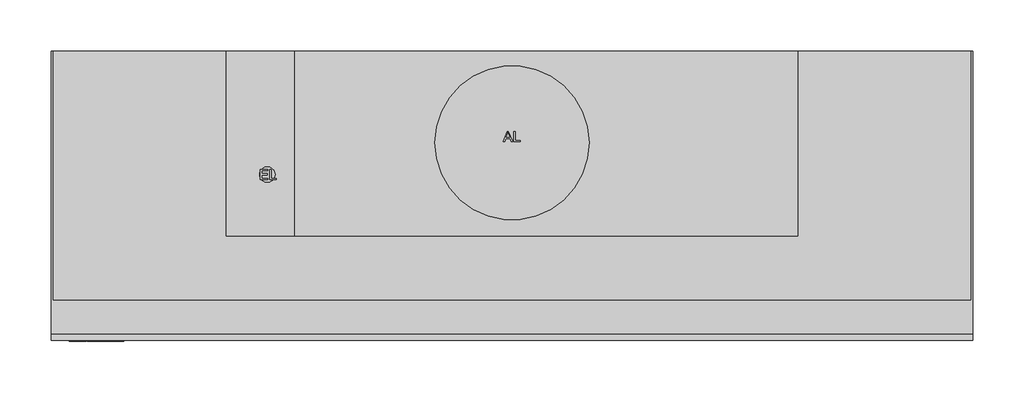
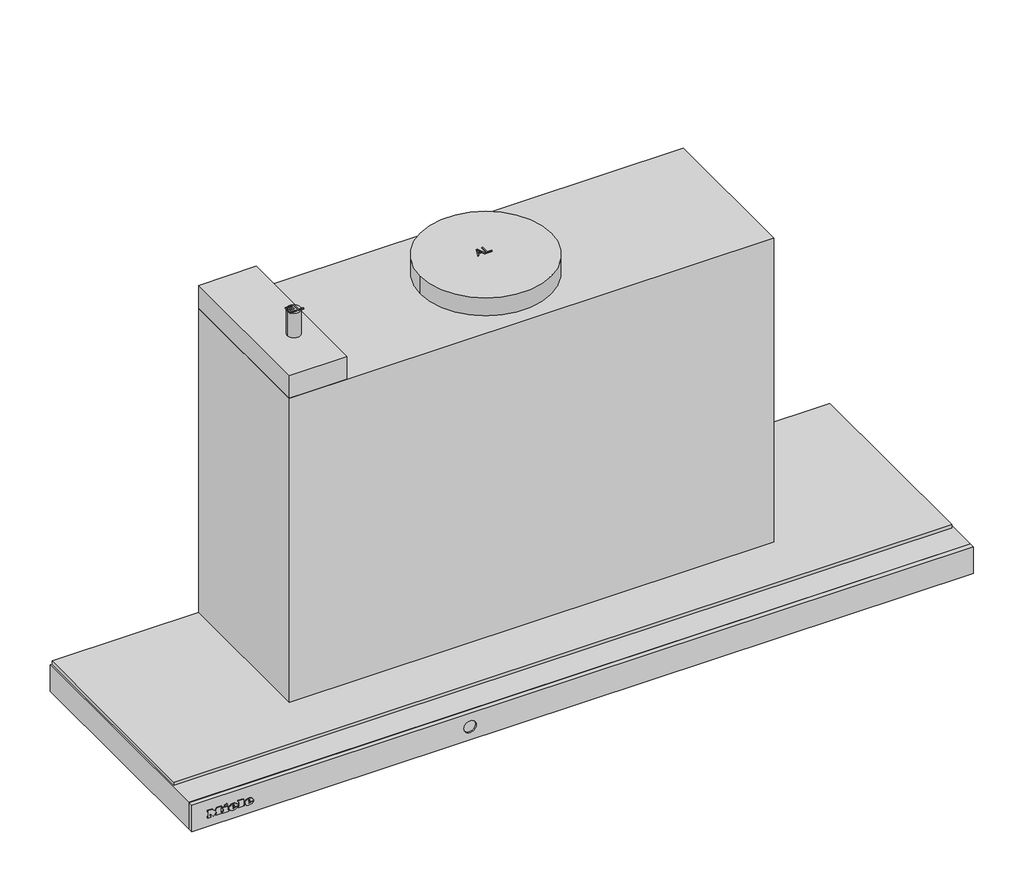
# Not in any storey: 1 proxy.
"""IFC4 building model written with IfcOpenShell, lengths in millimetres."""

import ifcopenshell
import ifcopenshell.guid

model = None  # the IFC model being written
_history = None  # IfcOwnerHistory: only IFC2X3 demands one
_inside = {}  # id of a spatial element -> (the spatial element, [elements in it])
_under = {}  # id of a project, library or spatial element -> (it, [spatial elements below it])
_declared = {}  # id of a project -> (the project, [libraries it declares])
_typed = {}  # id of a type object -> (the type object, [elements of that type])
_made_of = {}  # id of a material, layer set ... -> (it, [elements and type objects made of it])


def new_model(schema):
    """Start an empty IFC model of exactly this schema.

    Asked for "IFC4X3", IfcOpenShell would pick the latest addendum, in which some entities
    have other attributes; the version numbers below select the first issue.
    IFC2X3 requires an IfcOwnerHistory on every rooted entity: one is made here for all.
    """
    global model, _history
    if schema == "IFC4X3":
        model = ifcopenshell.file(schema_version=(4, 3, 0, 0))
    else:
        model = ifcopenshell.file(schema=schema)
    _inside.clear()
    _under.clear()
    _declared.clear()
    _typed.clear()
    _made_of.clear()
    _history = None
    if model.schema == "IFC2X3":
        org = make("IfcOrganization", Name="unknown")
        user = make(
            "IfcPersonAndOrganization",
            ThePerson=make("IfcPerson", FamilyName="unknown"),
            TheOrganization=org,
        )
        app = make(
            "IfcApplication",
            ApplicationDeveloper=org,
            Version="unknown",
            ApplicationFullName="unknown",
            ApplicationIdentifier="unknown",
        )
        _history = make(
            "IfcOwnerHistory",
            OwningUser=user,
            OwningApplication=app,
            ChangeAction="ADDED",
            CreationDate=0,
        )
    return model


def make(cls, **values):
    """One entity of the class cls with the attributes given. An attribute that is None is left unset."""
    return model.create_entity(
        cls, **{name: value for name, value in values.items() if value is not None}
    )


def rooted(cls, **values):
    """An entity with a GlobalId (a new one), such as an element, a storey or a relation."""
    return make(cls, GlobalId=ifcopenshell.guid.new(), OwnerHistory=_history, **values)


def si_unit(unit_type, name, prefix=None):
    """IfcSIUnit, for example si_unit("LENGTHUNIT", "METRE", prefix="MILLI")."""
    return make("IfcSIUnit", UnitType=unit_type, Prefix=prefix, Name=name)


def assignment(units):
    """IfcUnitAssignment: the units of a project."""
    return None if units is None else make("IfcUnitAssignment", Units=units)


def point(xyz):
    """IfcCartesianPoint."""
    return None if xyz is None else make("IfcCartesianPoint", Coordinates=xyz)


def direction(xyz):
    """IfcDirection."""
    return None if xyz is None else make("IfcDirection", DirectionRatios=xyz)


def frame(location, z_axis=None, x_axis=None):
    """IfcAxis2Placement3D, a coordinate frame: its origin and axes. An axis left out is left unset."""
    return make(
        "IfcAxis2Placement3D",
        Location=point(location),
        Axis=direction(z_axis),
        RefDirection=direction(x_axis),
    )


def frame_2d(location, x_axis=None):
    """IfcAxis2Placement2D, a coordinate frame in the plane: its origin and x axis."""
    return make(
        "IfcAxis2Placement2D", Location=point(location), RefDirection=direction(x_axis)
    )


def origin():
    """The frame at (0, 0, 0) with its axes left unset."""
    return frame((0.0, 0.0, 0.0))


def origin_with_axes():
    """The frame at (0, 0, 0) with the z axis (0, 0, 1) and the x axis (1, 0, 0) written out."""
    return frame((0.0, 0.0, 0.0), z_axis=(0.0, 0.0, 1.0), x_axis=(1.0, 0.0, 0.0))


def place(relative_to, where):
    """IfcLocalPlacement: puts the frame where relative to a parent placement (None: the world)."""
    return make(
        "IfcLocalPlacement", PlacementRelTo=relative_to, RelativePlacement=where
    )


def context(
    kind, dimensions, precision=None, world=None, true_north=None, identifier=None
):
    """IfcGeometricRepresentationContext, for example the 3D "Model" context."""
    return make(
        "IfcGeometricRepresentationContext",
        ContextIdentifier=identifier,
        ContextType=kind,
        CoordinateSpaceDimension=dimensions,
        Precision=precision,
        WorldCoordinateSystem=world,
        TrueNorth=true_north,
    )


def project(units=None, contexts=None):
    """IfcProject with its units and contexts."""
    return rooted(
        "IfcProject",
        Name="project",
        RepresentationContexts=contexts,
        UnitsInContext=assignment(units),
    )


def spatial(cls, under=None, at=None, **own):
    """A site, building, storey or space (cls), placed at a placement, below another one or the project."""
    s = rooted(cls, ObjectPlacement=at, **own)
    if under is not None:
        _under.setdefault(under.id(), (under, []))[1].append(s)
    return s


def polyline(points):
    """IfcPolyline through the points."""
    return make("IfcPolyline", Points=[point(p) for p in points])


def circle_curve(where, radius):
    """IfcCircle in the frame where."""
    return make("IfcCircle", Position=where, Radius=radius)


def ellipse_curve(where, semi_axis1, semi_axis2):
    """IfcEllipse in the frame where."""
    return make(
        "IfcEllipse", Position=where, SemiAxis1=semi_axis1, SemiAxis2=semi_axis2
    )


def trimmed(basis, trim1, trim2, sense, master):
    """IfcTrimmedCurve: the piece of a basis curve between two trims."""
    return make(
        "IfcTrimmedCurve",
        BasisCurve=basis,
        Trim1=trim1,
        Trim2=trim2,
        SenseAgreement=sense,
        MasterRepresentation=master,
    )


def segment(curve, same_sense, transition):
    """IfcCompositeCurveSegment."""
    return make(
        "IfcCompositeCurveSegment",
        Transition=transition,
        SameSense=same_sense,
        ParentCurve=curve,
    )


def composite_curve(segments, self_intersect=None):
    """IfcCompositeCurve: segments joined end to end."""
    return make("IfcCompositeCurve", Segments=segments, SelfIntersect=self_intersect)


def outline(outer, holes=None, kind="AREA"):
    """IfcArbitraryClosedProfileDef: a profile drawn as a closed curve; with holes, ...WithVoids."""
    if holes is None:
        return make("IfcArbitraryClosedProfileDef", ProfileType=kind, OuterCurve=outer)
    return make(
        "IfcArbitraryProfileDefWithVoids",
        ProfileType=kind,
        OuterCurve=outer,
        InnerCurves=holes,
    )


def extrude(swept, where, along, depth):
    """IfcExtrudedAreaSolid: the profile swept, set in the frame where, extruded along a direction by depth."""
    return make(
        "IfcExtrudedAreaSolid",
        SweptArea=swept,
        Position=where,
        ExtrudedDirection=direction(along),
        Depth=depth,
    )


def faces_of(points, faces, orient=None, outer=None):
    """IfcFace entities. A face is a list of loops; a loop is a list of indices into points, from 0.

    orient and outer hold one flag for each loop. By default every Orientation is true, the
    first loop of a face is its IfcFaceOuterBound and the others are IfcFaceBound.
    """
    made = []
    for i, loops in enumerate(faces):
        bounds = []
        for j, loop in enumerate(loops):
            is_outer = j == 0 if outer is None else outer[i][j]
            bounds.append(
                make(
                    "IfcFaceOuterBound" if is_outer else "IfcFaceBound",
                    Bound=make("IfcPolyLoop", Polygon=[points[k] for k in loop]),
                    Orientation=True if orient is None else orient[i][j],
                )
            )
        made.append(make("IfcFace", Bounds=bounds))
    return made


def faceted_brep(points, faces, orient=None, outer=None, voids=None):
    """IfcFacetedBrep: a solid bounded by flat faces; with voids (closed shells), ...WithVoids."""
    shared = [point(p) for p in points]
    hull = make("IfcClosedShell", CfsFaces=faces_of(shared, faces, orient, outer))
    if voids is None:
        return make("IfcFacetedBrep", Outer=hull)
    return make(
        "IfcFacetedBrepWithVoids",
        Outer=hull,
        Voids=[
            make(cls, CfsFaces=faces_of(shared, fs, o, b)) for cls, fs, o, b in voids
        ],
    )


def shape(context_of_items, identifier, shape_type, items):
    """IfcShapeRepresentation: the items that make up one representation, for example the "Body"."""
    return make(
        "IfcShapeRepresentation",
        ContextOfItems=context_of_items,
        RepresentationIdentifier=identifier,
        RepresentationType=shape_type,
        Items=items,
    )


def source(mapping_origin, context_of_items, identifier, shape_type, items):
    """IfcRepresentationMap: a shape defined once, which mapped items show again and again."""
    return make(
        "IfcRepresentationMap",
        MappingOrigin=mapping_origin,
        MappedRepresentation=shape(context_of_items, identifier, shape_type, items),
    )


def transform(
    local_origin,
    x_axis=None,
    y_axis=None,
    z_axis=None,
    scale=None,
    scale2=None,
    scale3=None,
    uniform=True,
):
    """IfcCartesianTransformationOperator3D, or its non-uniform kind. x_axis, y_axis, z_axis: its Axis1, 2, 3."""
    if uniform:
        return make(
            "IfcCartesianTransformationOperator3D",
            Axis1=direction(x_axis),
            Axis2=direction(y_axis),
            LocalOrigin=point(local_origin),
            Scale=scale,
            Axis3=direction(z_axis),
        )
    return make(
        "IfcCartesianTransformationOperator3DnonUniform",
        Axis1=direction(x_axis),
        Axis2=direction(y_axis),
        LocalOrigin=point(local_origin),
        Scale=scale,
        Axis3=direction(z_axis),
        Scale2=scale2,
        Scale3=scale3,
    )


def mapped(mapping_source, mapping_target):
    """IfcMappedItem: shows the shape of a source again, moved by a transform."""
    return make(
        "IfcMappedItem", MappingSource=mapping_source, MappingTarget=mapping_target
    )


def made_of(thing, what):
    """Note that an element or type object is made of a material, layer set ...; save() writes the relation."""
    if what is not None:
        _made_of.setdefault(what.id(), (what, []))[1].append(thing)
    return thing


def element(
    cls,
    number,
    at=None,
    inside=None,
    cuts=None,
    type_object=None,
    material=None,
    context=None,
    identifier="Body",
    shape_type=None,
    held_by="IfcProductDefinitionShape",
    body=None,
    shapes=None,
    **own,
):
    """One element of the class cls, such as IfcWall. Its Tag is "e" and its number.

    at: its placement. inside: the storey or other place that contains it. cuts: it is an
    opening in that element (IfcRelVoidsElement). A single representation is given by context,
    identifier, shape_type and body (its items); several are given by shapes. held_by: the class
    of the entity that holds the representations. save() writes the other relations.
    """
    e = rooted(cls, Tag="e%d" % number, ObjectPlacement=at, **own)
    if body is not None:
        shapes = [shape(context, identifier, shape_type, body)]
    if shapes is not None:
        e.Representation = make(held_by, Representations=shapes)
    if inside is not None:
        _inside.setdefault(inside.id(), (inside, []))[1].append(e)
    if cuts is not None:
        rooted(
            "IfcRelVoidsElement", RelatingBuildingElement=cuts, RelatedOpeningElement=e
        )
    if type_object is not None:
        _typed.setdefault(type_object.id(), (type_object, []))[1].append(e)
    return made_of(e, material)


def aggregate(whole, parts):
    """IfcRelAggregates: a whole, such as a stair, and the parts it consists of."""
    return rooted("IfcRelAggregates", RelatingObject=whole, RelatedObjects=parts)


def save(model, path):
    """Write the relations noted so far, then the file.

    IfcRelAggregates (storeys below a building ...), IfcRelContainedInSpatialStructure (elements
    in a storey), IfcRelDefinesByType, IfcRelAssociatesMaterial and IfcRelDeclares: one each for
    every whole, place, type object, material and project.
    """
    for whole, parts in _under.values():
        aggregate(whole, parts)
    for where, things in _inside.values():
        rooted(
            "IfcRelContainedInSpatialStructure",
            RelatedElements=things,
            RelatingStructure=where,
        )
    for kind, things in _typed.values():
        rooted("IfcRelDefinesByType", RelatedObjects=things, RelatingType=kind)
    for what, things in _made_of.values():
        rooted("IfcRelAssociatesMaterial", RelatedObjects=things, RelatingMaterial=what)
    for by, libraries in _declared.values():
        rooted("IfcRelDeclares", RelatingContext=by, RelatedDefinitions=libraries)
    model.write(path)


def plane_surface(at):
    """IfcPlane: the flat surface through the origin of the frame at, square to its z axis."""
    return make("IfcPlane", Position=at)


def cylinder_surface(at, radius):
    """IfcCylindricalSurface: all points at the distance radius from the z axis of the frame at."""
    return make("IfcCylindricalSurface", Position=at, Radius=radius)


def revolved_surface(curve, axis_point, axis_direction):
    """IfcSurfaceOfRevolution: the curve turned about the line through axis_point along axis_direction."""
    return make(
        "IfcSurfaceOfRevolution",
        SweptCurve=make("IfcArbitraryOpenProfileDef", ProfileType="CURVE", Curve=curve),
        AxisPosition=make("IfcAxis1Placement", Location=point(axis_point), Axis=direction(axis_direction)),
    )


def extruded_surface(curve, direction_of_extrusion, depth):
    """IfcSurfaceOfLinearExtrusion: the curve pushed along a direction by depth."""
    return make(
        "IfcSurfaceOfLinearExtrusion",
        SweptCurve=make("IfcArbitraryOpenProfileDef", ProfileType="CURVE", Curve=curve),
        ExtrudedDirection=direction(direction_of_extrusion),
        Depth=depth,
    )


def advanced_brep(points, edges, surfaces, faces):
    """IfcAdvancedBrep: a solid bounded by faces that lie on surfaces and meet in shared edges.

    An edge is (start, end): straight between two places in points (the first is 0);
    or (start, end, curve); or (start, end, curve, False) where it runs against its curve.
    A face is (place in surfaces, loops), or (place, loops, False) where it looks against
    its surface's normal. A loop lists edges by number (the first is 1), with a minus sign
    where the edge is run from its end to its start. The first loop is the outer one.
    """
    corners = [point(p) for p in points]
    vertices = [make("IfcVertexPoint", VertexGeometry=c) for c in corners]
    made = []
    for start, end, *more in edges:
        made.append(
            make(
                "IfcEdgeCurve",
                EdgeStart=vertices[start],
                EdgeEnd=vertices[end],
                EdgeGeometry=more[0] if more else make("IfcPolyline", Points=[corners[start], corners[end]]),
                SameSense=more[1] if len(more) > 1 else True,
            )
        )
    hull = []
    for where, loops, *sense in faces:
        bounds = []
        for j, loop in enumerate(loops):
            ring = [make("IfcOrientedEdge", EdgeElement=made[abs(k) - 1], Orientation=k > 0) for k in loop]
            bounds.append(
                make(
                    "IfcFaceOuterBound" if j == 0 else "IfcFaceBound",
                    Bound=make("IfcEdgeLoop", EdgeList=ring),
                    Orientation=True,
                )
            )
        hull.append(make("IfcAdvancedFace", Bounds=bounds, FaceSurface=surfaces[where], SameSense=sense[0] if sense else True))
    return make("IfcAdvancedBrep", Outer=make("IfcClosedShell", CfsFaces=hull))


def specialty_equipment_2f2f18a0(model_context):
    return source(origin(), model_context, "Body", "SolidModel", [
        advanced_brep(
        [(-383.4590019, -282.1878927, -18.7681017), (-383.4590019, -282.1878927, -17.8894017), (-377.6387019, -282.1878927, -17.8894017), (-387.7655019, -282.1878927, -17.8894017), (-385.3730019, -282.1878927, -20.8300017), (-377.7866019, -282.1878927, -18.7681017), (-380.4140019, -282.1878927, -18.7681017), (-382.4846019, -282.1878927, -19.7425017), (-383.4590019, -282.1878927, -16.7758017), (-383.4590019, -282.1878927, -15.8275017), (-381.9713019, -282.1878927, -15.8275017), (-381.9713019, -282.1878927, -16.7758017), (-383.4590019, -281.1878927, -18.7681017), (-382.4846019, -281.1878927, -19.7425017), (-380.4140019, -281.1878927, -18.7681017), (-377.7866019, -281.1878927, -18.7681017), (-385.3730019, -281.1878927, -20.8300017), (-387.7655019, -281.1878927, -17.8894017), (-377.6387019, -281.1878927, -17.8894017), (-383.4590019, -281.1878927, -17.8894017), (-383.4590019, -281.1878927, -16.7758017), (-381.9713019, -281.1878927, -16.7758017), (-381.9713019, -281.1878927, -15.8275017), (-383.4590019, -281.1878927, -15.8275017)],
        [
            (0, 1),
            (1, 2),
            (2, 3, ellipse_curve(frame((-382.7021019, -282.1878927, -17.8894017), z_axis=(0.0, -1.0, 0.0), x_axis=(-1.0, 0.0, 0.0)), 5.0634, 4.1847)),
            (3, 4, circle_curve(frame((-384.3985544, -282.1878927, -17.5936017), z_axis=(0.0, -1.0, 0.0), x_axis=(0.0, 0.0, -1.0)), 3.3799161)),
            (4, 5, circle_curve(frame((-382.8034638, -282.1878927, -15.2968017), z_axis=(0.0, -1.0, 0.0), x_axis=(0.0, 0.0, -1.0)), 6.1007236)),
            (5, 6),
            (6, 7, circle_curve(frame((-382.0593254, -282.1878927, -17.9590017), z_axis=(0.0, 1.0, 0.0), x_axis=(0.0, 0.0, -1.0)), 1.8335027)),
            (7, 0, circle_curve(frame((-382.4846019, -282.1878927, -18.7681017), z_axis=(0.0, 1.0, 0.0), x_axis=(0.0, 0.0, -1.0)), 0.9744)),
            (8, 9),
            (9, 10, circle_curve(frame((-382.7151519, -282.1878927, -15.8275017), z_axis=(0.0, 1.0, 0.0), x_axis=(0.0, 0.0, -1.0)), 0.74385)),
            (10, 11),
            (11, 8),
            (12, 13, circle_curve(frame((-382.4846019, -281.1878927, -18.7681017), z_axis=(0.0, -1.0, 0.0), x_axis=(0.0, 0.0, -1.0)), 0.9744)),
            (13, 14, circle_curve(frame((-382.0593254, -281.1878927, -17.9590017), z_axis=(0.0, -1.0, 0.0), x_axis=(0.0, 0.0, -1.0)), 1.8335027)),
            (14, 15),
            (15, 16, circle_curve(frame((-382.8034638, -281.1878927, -15.2968017), z_axis=(0.0, 1.0, 0.0), x_axis=(0.0, 0.0, -1.0)), 6.1007236)),
            (16, 17, circle_curve(frame((-384.3985544, -281.1878927, -17.5936017), z_axis=(0.0, 1.0, 0.0), x_axis=(0.0, 0.0, -1.0)), 3.3799161)),
            (17, 18, ellipse_curve(frame((-382.7021019, -281.1878927, -17.8894017), z_axis=(0.0, 1.0, 0.0), x_axis=(-1.0, 0.0, 0.0)), 5.0634, 4.1847)),
            (18, 19),
            (19, 12),
            (20, 21),
            (21, 22),
            (22, 23, circle_curve(frame((-382.7151519, -281.1878927, -15.8275017), z_axis=(0.0, -1.0, 0.0), x_axis=(0.0, 0.0, -1.0)), 0.74385)),
            (23, 20),
            (0, 12),
            (19, 1),
            (18, 2),
            (5, 15),
            (14, 6),
            (17, 3),
            (13, 7),
            (16, 4),
            (8, 20),
            (23, 9),
            (22, 10),
            (21, 11),
        ],
        [
            plane_surface(frame((-383.4590019, -282.1878927, -17.8894017), z_axis=(0.0, -1.0, 0.0), x_axis=(0.0, 0.0, 1.0))),
            plane_surface(frame((-383.4590019, -281.1878927, -17.8894017), z_axis=(0.0, 1.0, 0.0), x_axis=(0.0, 0.0, -1.0))),
            plane_surface(frame((-383.4590019, -282.1878927, -18.7681017), z_axis=(1.0, 0.0, 0.0), x_axis=(0.0, 1.0, 0.0))),
            plane_surface(frame((-383.4590019, -282.1878927, -17.8894017), z_axis=(0.0, 0.0, -1.0), x_axis=(0.0, 1.0, 0.0))),
            plane_surface(frame((-377.7866019, -282.1878927, -18.7681017), z_axis=(0.0, 0.0, 1.0), x_axis=(0.0, 1.0, 0.0))),
            extruded_surface(trimmed(ellipse_curve(frame((-382.7021019, -280.1878927, -17.8894017), z_axis=(0.0, -1.0, 0.0), x_axis=(-1.0, 0.0, 0.0)), 5.0634, 4.1847), [point((-377.6387019, -280.1878927, -17.8894017))], [point((-387.7655019, -280.1878927, -17.8894017))], True, "CARTESIAN"), (0.0, -1.0, 0.0), 1.0),
            revolved_surface(polyline([(-382.0593254, -281.1878927, -19.792504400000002), (-382.0593254, -282.1878927, -19.792504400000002)]), (-382.0593254, -281.1878927, -17.9590017), (0.0, 1.0, 0.0)),
            revolved_surface(polyline([(-382.4846019, -281.1878927, -19.7425017), (-382.4846019, -282.1878927, -19.7425017)]), (-382.4846019, -281.1878927, -18.7681017), (0.0, 1.0, 0.0)),
            cylinder_surface(frame((-384.3985544, -281.1878927, -17.5936017), z_axis=(0.0, -1.0, 0.0), x_axis=(0.0, 0.0, -1.0)), 3.3799161),
            cylinder_surface(frame((-382.8034638, -281.1878927, -15.2968017), z_axis=(0.0, -1.0, 0.0), x_axis=(0.0, 0.0, -1.0)), 6.1007236),
            plane_surface(frame((-383.4590019, -282.1878927, -16.7758017), z_axis=(1.0, 0.0, 0.0), x_axis=(0.0, 1.0, 0.0))),
            revolved_surface(polyline([(-382.7151519, -281.1878927, -16.571351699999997), (-382.7151519, -282.1878927, -16.571351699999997)]), (-382.7151519, -281.1878927, -15.8275017), (0.0, 1.0, 0.0)),
            plane_surface(frame((-381.9713019, -282.1878927, -15.8275017), z_axis=(-1.0, 0.0, 0.0), x_axis=(0.0, 1.0, 0.0))),
            plane_surface(frame((-381.9713019, -282.1878927, -16.7758017), z_axis=(0.0, 0.0, 1.0), x_axis=(0.0, 1.0, 0.0))),
        ],
        [
            (0, [[1, 2, 3, 4, 5, 6, 7, 8], [9, 10, 11, 12]]),
            (1, [[13, 14, 15, 16, 17, 18, 19, 20], [21, 22, 23, 24]]),
            (2, [[-1, 25, -20, 26]]),
            (3, [[-2, -26, -19, 27]]),
            (4, [[-6, 28, -15, 29]]),
            (5, [[-3, -27, -18, 30]]),
            (6, [[-7, -29, -14, 31]]),
            (7, [[-8, -31, -13, -25]]),
            (8, [[-4, -30, -17, 32]]),
            (9, [[-5, -32, -16, -28]]),
            (10, [[-9, 33, -24, 34]]),
            (11, [[-10, -34, -23, 35]]),
            (12, [[-11, -35, -22, 36]]),
            (13, [[-12, -36, -21, -33]]),
        ],
    ),
        advanced_brep(
        [(-401.6159019, -282.1878927, -18.7681017), (-401.6159019, -282.1878927, -17.8894017), (-395.7956019, -282.1878927, -17.8894017), (-405.9224019, -282.1878927, -17.8894017), (-403.5299019, -282.1878927, -20.8300017), (-395.9435019, -282.1878927, -18.7681017), (-398.5709019, -282.1878927, -18.7681017), (-400.6415019, -282.1878927, -19.7425017), (-401.6159019, -282.1878927, -16.7758017), (-401.6159019, -282.1878927, -15.8275017), (-400.1282019, -282.1878927, -15.8275017), (-400.1282019, -282.1878927, -16.7758017), (-401.6159019, -281.1878927, -18.7681017), (-400.6415019, -281.1878927, -19.7425017), (-398.5709019, -281.1878927, -18.7681017), (-395.9435019, -281.1878927, -18.7681017), (-403.5299019, -281.1878927, -20.8300017), (-405.9224019, -281.1878927, -17.8894017), (-395.7956019, -281.1878927, -17.8894017), (-401.6159019, -281.1878927, -17.8894017), (-401.6159019, -281.1878927, -16.7758017), (-400.1282019, -281.1878927, -16.7758017), (-400.1282019, -281.1878927, -15.8275017), (-401.6159019, -281.1878927, -15.8275017)],
        [
            (0, 1),
            (1, 2),
            (2, 3, ellipse_curve(frame((-400.8590019, -282.1878927, -17.8894017), z_axis=(0.0, -1.0, 0.0), x_axis=(-1.0, 0.0, 0.0)), 5.0634, 4.1847)),
            (3, 4, circle_curve(frame((-402.5554544, -282.1878927, -17.5936017), z_axis=(0.0, -1.0, 0.0), x_axis=(0.0, 0.0, -1.0)), 3.3799161)),
            (4, 5, circle_curve(frame((-400.9603638, -282.1878927, -15.2968017), z_axis=(0.0, -1.0, 0.0), x_axis=(0.0, 0.0, -1.0)), 6.1007236)),
            (5, 6),
            (6, 7, circle_curve(frame((-400.2162254, -282.1878927, -17.9590017), z_axis=(0.0, 1.0, 0.0), x_axis=(0.0, 0.0, -1.0)), 1.8335027)),
            (7, 0, circle_curve(frame((-400.6415019, -282.1878927, -18.7681017), z_axis=(0.0, 1.0, 0.0), x_axis=(0.0, 0.0, -1.0)), 0.9744)),
            (8, 9),
            (9, 10, circle_curve(frame((-400.8720519, -282.1878927, -15.8275017), z_axis=(0.0, 1.0, 0.0), x_axis=(0.0, 0.0, -1.0)), 0.74385)),
            (10, 11),
            (11, 8),
            (12, 13, circle_curve(frame((-400.6415019, -281.1878927, -18.7681017), z_axis=(0.0, -1.0, 0.0), x_axis=(0.0, 0.0, -1.0)), 0.9744)),
            (13, 14, circle_curve(frame((-400.2162254, -281.1878927, -17.9590017), z_axis=(0.0, -1.0, 0.0), x_axis=(0.0, 0.0, -1.0)), 1.8335027)),
            (14, 15),
            (15, 16, circle_curve(frame((-400.9603638, -281.1878927, -15.2968017), z_axis=(0.0, 1.0, 0.0), x_axis=(0.0, 0.0, -1.0)), 6.1007236)),
            (16, 17, circle_curve(frame((-402.5554544, -281.1878927, -17.5936017), z_axis=(0.0, 1.0, 0.0), x_axis=(0.0, 0.0, -1.0)), 3.3799161)),
            (17, 18, ellipse_curve(frame((-400.8590019, -281.1878927, -17.8894017), z_axis=(0.0, 1.0, 0.0), x_axis=(-1.0, 0.0, 0.0)), 5.0634, 4.1847)),
            (18, 19),
            (19, 12),
            (20, 21),
            (21, 22),
            (22, 23, circle_curve(frame((-400.8720519, -281.1878927, -15.8275017), z_axis=(0.0, -1.0, 0.0), x_axis=(0.0, 0.0, -1.0)), 0.74385)),
            (23, 20),
            (0, 12),
            (19, 1),
            (18, 2),
            (5, 15),
            (14, 6),
            (17, 3),
            (13, 7),
            (16, 4),
            (8, 20),
            (23, 9),
            (22, 10),
            (21, 11),
        ],
        [
            plane_surface(frame((-401.6159019, -282.1878927, -17.8894017), z_axis=(0.0, -1.0, 0.0), x_axis=(0.0, 0.0, 1.0))),
            plane_surface(frame((-401.6159019, -281.1878927, -17.8894017), z_axis=(0.0, 1.0, 0.0), x_axis=(0.0, 0.0, -1.0))),
            plane_surface(frame((-401.6159019, -282.1878927, -18.7681017), z_axis=(1.0, 0.0, 0.0), x_axis=(0.0, 1.0, 0.0))),
            plane_surface(frame((-401.6159019, -282.1878927, -17.8894017), z_axis=(0.0, 0.0, -1.0), x_axis=(0.0, 1.0, 0.0))),
            plane_surface(frame((-395.9435019, -282.1878927, -18.7681017), z_axis=(0.0, 0.0, 1.0), x_axis=(0.0, 1.0, 0.0))),
            extruded_surface(trimmed(ellipse_curve(frame((-400.8590019, -280.1878927, -17.8894017), z_axis=(0.0, -1.0, 0.0), x_axis=(-1.0, 0.0, 0.0)), 5.0634, 4.1847), [point((-395.7956019, -280.1878927, -17.8894017))], [point((-405.9224019, -280.1878927, -17.8894017))], True, "CARTESIAN"), (0.0, -1.0, 0.0), 1.0),
            revolved_surface(polyline([(-400.2162254, -281.1878927, -19.792504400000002), (-400.2162254, -282.1878927, -19.792504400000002)]), (-400.2162254, -281.1878927, -17.9590017), (0.0, 1.0, 0.0)),
            revolved_surface(polyline([(-400.6415019, -281.1878927, -19.7425017), (-400.6415019, -282.1878927, -19.7425017)]), (-400.6415019, -281.1878927, -18.7681017), (0.0, 1.0, 0.0)),
            cylinder_surface(frame((-402.5554544, -281.1878927, -17.5936017), z_axis=(0.0, -1.0, 0.0), x_axis=(0.0, 0.0, -1.0)), 3.3799161),
            cylinder_surface(frame((-400.9603638, -281.1878927, -15.2968017), z_axis=(0.0, -1.0, 0.0), x_axis=(0.0, 0.0, -1.0)), 6.1007236),
            plane_surface(frame((-401.6159019, -282.1878927, -16.7758017), z_axis=(1.0, 0.0, 0.0), x_axis=(0.0, 1.0, 0.0))),
            revolved_surface(polyline([(-400.8720519, -281.1878927, -16.571351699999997), (-400.8720519, -282.1878927, -16.571351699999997)]), (-400.8720519, -281.1878927, -15.8275017), (0.0, 1.0, 0.0)),
            plane_surface(frame((-400.1282019, -282.1878927, -15.8275017), z_axis=(-1.0, 0.0, 0.0), x_axis=(0.0, 1.0, 0.0))),
            plane_surface(frame((-400.1282019, -282.1878927, -16.7758017), z_axis=(0.0, 0.0, 1.0), x_axis=(0.0, 1.0, 0.0))),
        ],
        [
            (0, [[1, 2, 3, 4, 5, 6, 7, 8], [9, 10, 11, 12]]),
            (1, [[13, 14, 15, 16, 17, 18, 19, 20], [21, 22, 23, 24]]),
            (2, [[-1, 25, -20, 26]]),
            (3, [[-2, -26, -19, 27]]),
            (4, [[-6, 28, -15, 29]]),
            (5, [[-3, -27, -18, 30]]),
            (6, [[-7, -29, -14, 31]]),
            (7, [[-8, -31, -13, -25]]),
            (8, [[-4, -30, -17, 32]]),
            (9, [[-5, -32, -16, -28]]),
            (10, [[-9, 33, -24, 34]]),
            (11, [[-10, -34, -23, 35]]),
            (12, [[-11, -35, -22, 36]]),
            (13, [[-12, -36, -21, -33]]),
        ],
    ),
        extrude(outline(polyline([(-12.6433017, -411.1250019), (-14.0527017, -410.4638019), (-12.6781017, -407.5145019), (-11.2687017, -408.1670019), (-12.6433017, -411.1250019)])), frame((0.0, -282.1878927, 0.0), z_axis=(0.0, 1.0, 0.0), x_axis=(0.0, 0.0, 1.0)), (0.0, 0.0, 1.0), 1.0),
        extrude(outline(polyline([(-14.2441017, -413.2739019), (-15.8014017, -413.2739019), (-15.8014017, -412.2386019), (-19.3684017, -412.2386019), (-19.3684017, -413.2739019), (-20.8300017, -413.2739019), (-20.8300017, -406.4096019), (-19.3684017, -406.4096019), (-19.3684017, -407.4188019), (-14.2441017, -407.4188019), (-14.2441017, -413.2739019)])), frame((0.0, -282.1878927, 0.0), z_axis=(0.0, 1.0, 0.0), x_axis=(0.0, 0.0, 1.0)), (0.0, 0.0, 1.0), 1.0),
        extrude(outline(polyline([(-13.5481017, -395.3084019), (-13.5481017, -394.2644019), (-19.3684017, -394.2644019), (-19.3684017, -395.3084019), (-20.8300017, -395.3084019), (-20.8300017, -388.2527019), (-19.3684017, -388.2527019), (-19.3684017, -389.3228019), (-12.1300017, -389.3228019), (-12.1300017, -395.3084019), (-13.5481017, -395.3084019)])), frame((0.0, -282.1878927, 0.0), z_axis=(0.0, 1.0, 0.0), x_axis=(0.0, 0.0, 1.0)), (0.0, 0.0, 1.0), 1.0),
        extrude(outline(polyline([(-13.5481017, -430.6130019), (-13.5481017, -429.5603019), (-19.3684017, -429.5603019), (-19.3684017, -430.6130019), (-20.8300017, -430.6130019), (-20.8300017, -426.7850019), (-19.3684017, -426.7850019), (-19.3684017, -427.8290019), (-15.6719769, -427.8290019), (-20.8300017, -423.9401019), (-15.5772794, -420.0338019), (-19.3684017, -420.0338019), (-19.3684017, -421.1039019), (-20.8300017, -421.1039019), (-20.8300017, -414.1613019), (-19.3684017, -414.1613019), (-19.3684017, -415.2662019), (-13.5481017, -415.2662019), (-13.5481017, -414.1613019), (-12.1300017, -414.1613019), (-12.1300017, -419.4596019), (-15.3925017, -422.0000019), (-12.1300017, -424.5491019), (-12.1300017, -430.6130019), (-13.5481017, -430.6130019)])), frame((0.0, -282.1878927, 0.0), z_axis=(0.0, 1.0, 0.0), x_axis=(0.0, 0.0, 1.0)), (0.0, 0.0, 1.0), 1.0),
        advanced_brep(
        [(-448.0, -281.1878927, 0.0), (-448.0, -281.1878927, -32.0), (448.0, -281.1878927, -32.0), (448.0, -281.1878927, 0.0), (-121.989338, -281.1878927, -16.0), (-136.010662, -281.1878927, -16.0), (-448.0, -275.4770358, 0.0), (448.0, -275.4770358, 0.0), (448.0, -275.4770358, -32.0), (-448.0, -275.4770358, -32.0), (-136.010662, -279.3472208, -16.0), (-121.989338, -279.3472208, -16.0)],
        [
            (0, 1),
            (1, 2),
            (2, 3),
            (3, 0),
            (4, 5, circle_curve(frame((-129.0, -281.1878927, -16.0), z_axis=(0.0, 1.0, 0.0), x_axis=(1.0, 0.0, 0.0)), 7.010662)),
            (5, 4, circle_curve(frame((-129.0, -281.1878927, -16.0), z_axis=(0.0, 1.0, 0.0), x_axis=(1.0, 0.0, 0.0)), 7.010662)),
            (6, 7),
            (7, 8),
            (8, 9),
            (9, 6),
            (3, 7),
            (6, 0),
            (2, 8),
            (1, 9),
            (10, 11, circle_curve(frame((-129.0, -279.3472208, -16.0), z_axis=(0.0, -1.0, 0.0), x_axis=(1.0, 0.0, 0.0)), 7.010662)),
            (11, 10, circle_curve(frame((-129.0, -279.3472208, -16.0), z_axis=(0.0, -1.0, 0.0), x_axis=(1.0, 0.0, 0.0)), 7.010662)),
            (10, 5),
            (4, 11),
        ],
        [
            plane_surface(frame((-448.0, -281.1878927, 0.0), z_axis=(0.0, -1.0, 0.0), x_axis=(0.0, 0.0, -1.0))),
            plane_surface(frame((-448.0, -275.4770358, 0.0), z_axis=(0.0, 1.0, 0.0), x_axis=(0.0, 0.0, 1.0))),
            plane_surface(frame((448.0, -281.1878927, 0.0), z_axis=(0.0, 0.0, 1.0), x_axis=(0.0, 1.0, 0.0))),
            plane_surface(frame((448.0, -281.1878927, -32.0), z_axis=(1.0, 0.0, 0.0), x_axis=(0.0, 1.0, 0.0))),
            plane_surface(frame((-448.0, -281.1878927, -32.0), z_axis=(0.0, 0.0, -1.0), x_axis=(0.0, 1.0, 0.0))),
            plane_surface(frame((-448.0, -281.1878927, 0.0), z_axis=(-1.0, 0.0, 0.0), x_axis=(0.0, 1.0, 0.0))),
            plane_surface(frame((-121.989338, -279.3472208, -16.0), z_axis=(0.0, -1.0, 0.0), x_axis=(0.0, 0.0, -1.0))),
            revolved_surface(polyline([(-121.989338, -281.1878927, -16.0), (-121.989338, -279.3472208, -16.0)]), (-129.0, -279.3472208, -16.0), (0.0, -1.0, 0.0)),
        ],
        [
            (0, [[1, 2, 3, 4], [5, 6]]),
            (1, [[7, 8, 9, 10]]),
            (2, [[-4, 11, -7, 12]]),
            (3, [[-3, 13, -8, -11]]),
            (4, [[-2, 14, -9, -13]]),
            (5, [[-1, -12, -10, -14]]),
            (6, [[15, 16]]),
            (7, [[-15, 17, -5, 18]]),
            (7, [[-16, -18, -6, -17]]),
        ],
    ),
        extrude(outline(polyline([(278.0, -180.0), (-278.0, -180.0), (-278.0, 0.0), (278.0, 0.0), (278.0, -180.0)])), frame((0.0, 0.0, 4.0), z_axis=(0.0, 0.0, 1.0), x_axis=(1.0, 0.0, 0.0)), (0.0, 0.0, 1.0), 369.0),
        extrude(outline(composite_curve([segment(trimmed(circle_curve(frame_2d((0.0, -89.0)), 75.0), [point((-75.0, -89.0))], [point((75.0, -89.0))], False, "CARTESIAN"), True, "CONTINUOUS"), segment(trimmed(circle_curve(frame_2d((0.0, -89.0)), 75.0), [point((75.0, -89.0))], [point((-75.0, -89.0))], False, "CARTESIAN"), True, "CONTINUOUS")], self_intersect=False)), frame((0.0, 0.0, 373.0), z_axis=(0.0, 0.0, 1.0), x_axis=(1.0, 0.0, 0.0)), (0.0, 0.0, 1.0), 22.0),
        extrude(outline(polyline([(-278.0, -180.0), (-278.0, 0.0), (-212.0, 0.0), (-212.0, -180.0), (-278.0, -180.0)])), frame((0.0, 0.0, 373.0), z_axis=(0.0, 0.0, 1.0), x_axis=(1.0, 0.0, 0.0)), (0.0, 0.0, 1.0), 28.0),
        extrude(outline(polyline([(-8.5446725, -87.975609), (-4.5347587, -77.929978), (-3.4654484, -77.929978), (0.5420128, -87.975609), (-0.7848149, -87.975609), (-1.9326067, -84.8363493), (-6.0725055, -84.8363493), (-7.2202973, -87.975609), (-8.5446725, -87.975609)]), holes=[polyline([(-5.6114267, -83.5806455), (-2.391233, -83.5806455), (-3.2986752, -81.110931), (-4.0025561, -79.1856819), (-4.6279555, -80.8951069), (-5.6114267, -83.5806455)])]), frame((0.0, 0.0, 395.0), z_axis=(0.0, 0.0, 1.0), x_axis=(1.0, 0.0, 0.0)), (0.0, 0.0, 1.0), 1.0),
        extrude(outline(polyline([(1.8835558, -87.975609), (1.8835558, -77.929978), (3.1392597, -77.929978), (3.1392597, -86.7199052), (8.1620752, -86.7199052), (8.1620752, -87.975609), (1.8835558, -87.975609)])), frame((0.0, 0.0, 395.0), z_axis=(0.0, 0.0, 1.0), x_axis=(1.0, 0.0, 0.0)), (0.0, 0.0, 1.0), 1.0),
        extrude(outline(polyline([(446.0, 0.0), (446.0, -242.0), (-446.0, -242.0), (-446.0, 0.0), (446.0, 0.0)])), origin_with_axes(), (0.0, 0.0, 1.0), 4.0),
        extrude(outline(polyline([(120.0, -19.25), (120.0, -31.75), (-120.0, -31.75), (-120.0, -19.25), (120.0, -19.25)])), frame((0.0, 0.0, -23.0), z_axis=(0.0, 0.0, 1.0), x_axis=(1.0, 0.0, 0.0)), (0.0, 0.0, 1.0), 1.785426),
        extrude(outline(polyline([(331.0813184, -268.0), (331.0813184, -246.0), (399.0, -246.0), (399.0, -268.0), (331.0813184, -268.0)])), frame((0.0, 0.0, -33.3019181), z_axis=(0.0, 0.0, 1.0), x_axis=(1.0, 0.0, 0.0)), (0.0, 0.0, 1.0), 1.3019181),
        extrude(outline(polyline([(-399.0, -268.0), (-399.0, -246.0), (-331.0, -246.0), (-331.0, -268.0), (-399.0, -268.0)])), frame((0.0, 0.0, -33.3019181), z_axis=(0.0, 0.0, 1.0), x_axis=(1.0, 0.0, 0.0)), (0.0, 0.0, 1.0), 1.3019181),
        extrude(outline(composite_curve([segment(trimmed(circle_curve(frame_2d((-238.0, -120.0)), 7.5), [point((-230.5, -120.0))], [point((-245.5, -120.0))], False, "CARTESIAN"), True, "CONTINUOUS"), segment(trimmed(circle_curve(frame_2d((-238.0, -120.0)), 7.5), [point((-245.5, -120.0))], [point((-230.5, -120.0))], False, "CARTESIAN"), True, "CONTINUOUS")], self_intersect=False)), frame((0.0, 0.0, 401.0), z_axis=(0.0, 0.0, 1.0), x_axis=(1.0, 0.0, 0.0)), (0.0, 0.0, 1.0), 30.0),
        extrude(outline(polyline([(-235.640443, -124.9184735), (-235.640443, -114.8728425), (-234.3847391, -114.8728425), (-234.3847391, -123.6627696), (-229.3619236, -123.6627696), (-229.3619236, -124.9184735), (-235.640443, -124.9184735)])), frame((0.0, 0.0, 431.0), z_axis=(0.0, 0.0, 1.0), x_axis=(1.0, 0.0, 0.0)), (0.0, 0.0, 1.0), 1.0),
        extrude(outline(polyline([(-244.9012591, -124.9184735), (-244.9012591, -114.8728425), (-237.6809618, -114.8728425), (-237.6809618, -116.1285464), (-243.6455552, -116.1285464), (-243.6455552, -119.1108431), (-237.9948878, -119.1108431), (-237.9948878, -120.366547), (-243.6455552, -120.366547), (-243.6455552, -123.6627696), (-237.5239988, -123.6627696), (-237.5239988, -124.9184735), (-244.9012591, -124.9184735)])), frame((0.0, 0.0, 431.0), z_axis=(0.0, 0.0, 1.0), x_axis=(1.0, 0.0, 0.0)), (0.0, 0.0, 1.0), 1.0),
        extrude(outline(polyline([(-448.0, 0.0), (-413.0, 0.0), (-413.0, -242.0), (413.0, -242.0), (413.0, 0.0), (448.0, 0.0), (448.0, -275.0), (-448.0, -275.0), (-448.0, 0.0)])), frame((0.0, 0.0, -32.0), z_axis=(0.0, 0.0, 1.0), x_axis=(1.0, 0.0, 0.0)), (0.0, 0.0, 1.0), 32.0),
        faceted_brep([(-126.0, -39.0, -24.0), (-126.0, -39.0, 0.0), (126.0, -39.0, 0.0), (126.0, -39.0, -24.0), (-126.0, -12.0, -24.0), (-126.0, -12.0, 0.0), (126.0, -12.0, -24.0), (126.0, -12.0, 0.0), (-413.0, -242.0, 0.0), (-413.0, 0.0, 0.0), (-413.0, 0.0, -24.0), (-413.0, -52.0, -24.0), (-413.0, -52.0, -25.0), (-413.0, -242.0, -25.0), (413.0, -52.0, -25.0), (413.0, -242.0, -25.0), (413.0, -52.0, -24.0), (413.0, 0.0, -24.0), (413.0, 0.0, 0.0), (413.0, -242.0, 0.0)], [[[0, 1, 2, 3]], [[4, 5, 1, 0]], [[6, 7, 5, 4]], [[8, 9, 10, 11, 12, 13]], [[13, 12, 14, 15]], [[16, 11, 10, 17], [6, 4, 0, 3]], [[11, 16, 14, 12]], [[18, 9, 8, 19], [5, 7, 2, 1]], [[9, 18, 17, 10]], [[19, 8, 13, 15]], [[18, 19, 15, 14, 16, 17]], [[7, 6, 3, 2]]]),
        extrude(outline(polyline([(126.0, -12.0), (126.0, -39.0), (-126.0, -39.0), (-126.0, -12.0), (126.0, -12.0)]), holes=[polyline([(120.0, -19.25), (-120.0, -19.25), (-120.0, -31.75), (120.0, -31.75), (120.0, -19.25)])]), frame((0.0, 0.0, -21.214574), z_axis=(0.0, 0.0, 1.0), x_axis=(1.0, 0.0, 0.0)), (0.0, 0.0, 1.0), 21.214574),
    ])


model = new_model("IFC4")

# Units and contexts
model_context = context("Model", 3, world=origin())
ifc_project = project(units=[si_unit("LENGTHUNIT", "METRE", prefix="MILLI")], contexts=[model_context])

# Site, building
site = spatial("IfcSite", under=ifc_project)
building = spatial("IfcBuilding", under=site)

# Proxy
placement = place(None, origin())
specialty_equipment_shape = specialty_equipment_2f2f18a0(model_context)
element("IfcBuildingElementProxy", 1, Name="11862270_D_DAS4930_OBSW : 28S4930B_D_11862270_DAS4930_OBSW", ObjectType="11862270_D_DAS4930_OBSW : 28S4930B_D_11862270_DAS4930_OBSW", at=placement, inside=building, context=model_context, shape_type="MappedRepresentation", body=[
    mapped(specialty_equipment_shape, transform((0.0, 0.0, 0.0), x_axis=(1.0, 0.0, 0.0), y_axis=(0.0, 1.0, 0.0), z_axis=(0.0, 0.0, 1.0))),
])

save(model, "model.ifc")
